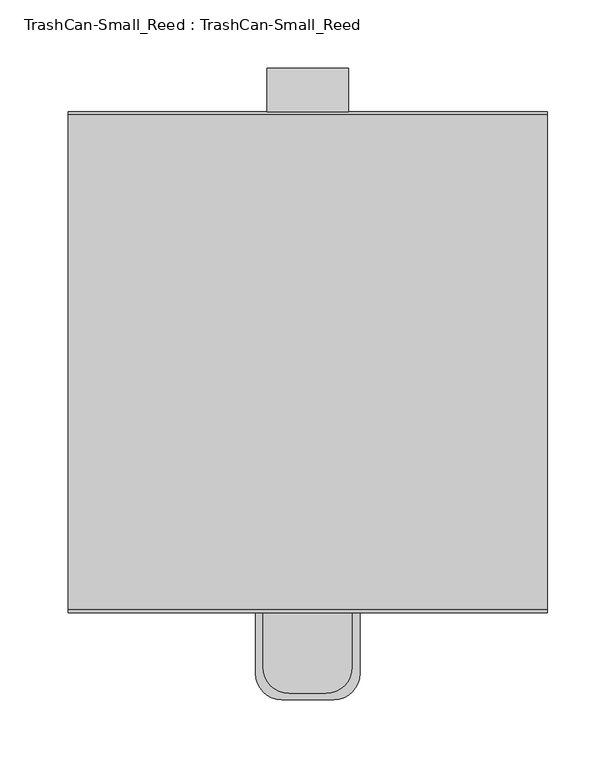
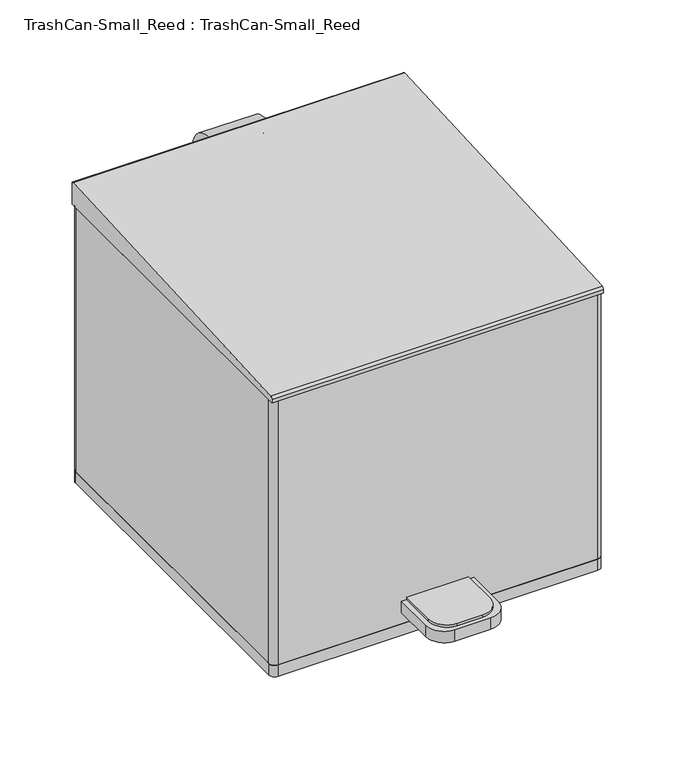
"""IFC4 building model written with IfcOpenShell, lengths in millimetres: proxy geometry, TrashCan-Small_Reed : TrashCan-Small_Reed."""

from ifc_helpers import new_model, si_unit, point, frame, frame_2d, origin, origin_with_axes, place, context, project, spatial, polyline, circle_curve, trimmed, segment, composite_curve, outline, extrude, source, transform, mapped, element, save


def trashcan_small_reed_trashcan_small_reed_99036629(model_context):
    return source(origin(), model_context, "Body", "SweptSolid", [
        extrude(outline(composite_curve([segment(trimmed(circle_curve(frame_2d((182.8601563, 306.5337461)), 7.1959414), [point((182.8601563, 299.3378048))], [point((182.8601563, 313.7296875))], True, "CARTESIAN"), True, "CONTINUOUS"), segment(polyline([(182.8601563, 313.7296875), (182.8601563, 331.0878048)]), True, "CONTINUOUS"), segment(trimmed(circle_curve(frame_2d((182.8601563, 299.3378048)), 31.75), [point((182.8601563, 331.0878048))], [point((182.8601563, 267.5878048))], False, "CARTESIAN"), True, "CONTINUOUS"), segment(polyline([(182.8601563, 267.5878048), (182.8601563, 299.3378048)]), True, "CONTINUOUS")], self_intersect=False)), frame((-29.9163641, 0.0, 0.0), z_axis=(1.0, 0.0, 0.0), x_axis=(0.0, 1.0, 0.0)), (0.0, 0.0, 1.0), 59.8327283),
        extrude(outline(composite_curve([segment(polyline([(-32.7332331, -222.7484044), (-32.7332331, -182.8601563), (32.4648948, -182.8601562), (32.4648948, -222.7484044)]), True, "CONTINUOUS"), segment(trimmed(circle_curve(frame_2d((13.4148948, -222.7484044)), 19.05), [point((32.4648948, -222.7484044))], [point((13.4148948, -241.7984044))], False, "CARTESIAN"), True, "CONTINUOUS"), segment(polyline([(13.4148948, -241.7984044), (-13.6832331, -241.7984044)]), True, "CONTINUOUS"), segment(trimmed(circle_curve(frame_2d((-13.6832331, -222.7484044)), 19.05), [point((-13.6832331, -241.7984044))], [point((-32.7332331, -222.7484044))], False, "CARTESIAN"), True, "CONTINUOUS")], self_intersect=False)), frame((0.0, 0.0, 38.1), z_axis=(0.0, 0.0, 1.0), x_axis=(1.0, 0.0, 0.0)), (0.0, 0.0, 1.0), 2.54),
        extrude(outline(composite_curve([segment(polyline([(-38.1, -227.3101563), (-38.1, -182.8601563), (38.1, -182.8601562), (38.1, -227.3101563)]), True, "CONTINUOUS"), segment(trimmed(circle_curve(frame_2d((19.05, -227.3101563)), 19.05), [point((38.1, -227.3101563))], [point((19.05, -246.3601563))], False, "CARTESIAN"), True, "CONTINUOUS"), segment(polyline([(19.05, -246.3601563), (-19.05, -246.3601563)]), True, "CONTINUOUS"), segment(trimmed(circle_curve(frame_2d((-19.05, -227.3101563)), 19.05), [point((-19.05, -246.3601563))], [point((-38.1, -227.3101563))], False, "CARTESIAN"), True, "CONTINUOUS")], self_intersect=False)), frame((0.0, 0.0, 25.4), z_axis=(0.0, 0.0, 1.0), x_axis=(1.0, 0.0, 0.0)), (0.0, 0.0, 1.0), 12.7),
        extrude(outline(composite_curve([segment(polyline([(-182.8601563, 307.3796875), (-182.8601563, 311.3253655)]), True, "CONTINUOUS"), segment(trimmed(circle_curve(frame_2d((-180.4493891, 311.3253655)), 2.4107671), [point((-182.8601563, 311.3253655))], [point((-180.5755589, 313.7328288))], False, "CARTESIAN"), True, "CONTINUOUS"), segment(polyline([(-180.5755589, 313.7328288), (181.1705922, 332.6911412)]), True, "CONTINUOUS"), segment(trimmed(circle_curve(frame_2d((181.2546195, 331.0878048)), 1.6055368), [point((181.1705922, 332.6911412))], [point((182.8601563, 331.0878048))], False, "CARTESIAN"), True, "CONTINUOUS"), segment(polyline([(182.8601563, 331.0878048), (182.8601563, 307.3796875), (-182.8601563, 307.3796875)]), True, "CONTINUOUS")], self_intersect=False)), frame((-175.0, 0.0, 0.0), z_axis=(1.0, 0.0, 0.0), x_axis=(0.0, 1.0, 0.0)), (0.0, 0.0, 1.0), 350.0),
        extrude(outline(composite_curve([segment(trimmed(circle_curve(frame_2d((-168.65, 176.5101562)), 6.35), [point((-175.0, 176.5101562))], [point((-168.65, 182.8601562))], False, "CARTESIAN"), True, "CONTINUOUS"), segment(polyline([(-168.65, 182.8601562), (168.65, 182.8601562)]), True, "CONTINUOUS"), segment(trimmed(circle_curve(frame_2d((168.65, 176.5101562)), 6.35), [point((168.65, 182.8601562))], [point((175.0, 176.5101562))], False, "CARTESIAN"), True, "CONTINUOUS"), segment(polyline([(175.0, 176.5101562), (175.0, -176.5101562)]), True, "CONTINUOUS"), segment(trimmed(circle_curve(frame_2d((168.65, -176.5101562)), 6.35), [point((175.0, -176.5101562))], [point((168.65, -182.8601562))], False, "CARTESIAN"), True, "CONTINUOUS"), segment(polyline([(168.65, -182.8601562), (-168.65, -182.8601562)]), True, "CONTINUOUS"), segment(trimmed(circle_curve(frame_2d((-168.65, -176.5101562)), 6.35), [point((-168.65, -182.8601562))], [point((-175.0, -176.5101562))], False, "CARTESIAN"), True, "CONTINUOUS"), segment(polyline([(-175.0, -176.5101562), (-175.0, 176.5101562)]), True, "CONTINUOUS")], self_intersect=False)), origin_with_axes(), (0.0, 0.0, 1.0), 12.7),
        extrude(outline(composite_curve([segment(polyline([(-175.0, -176.5101562), (-175.0, 176.5101562)]), True, "CONTINUOUS"), segment(trimmed(circle_curve(frame_2d((-168.65, 176.5101562)), 6.35), [point((-175.0, 176.5101562))], [point((-168.65, 182.8601562))], False, "CARTESIAN"), True, "CONTINUOUS"), segment(polyline([(-168.65, 182.8601562), (168.65, 182.8601562)]), True, "CONTINUOUS"), segment(trimmed(circle_curve(frame_2d((168.65, 176.5101562)), 6.35), [point((168.65, 182.8601562))], [point((175.0, 176.5101562))], False, "CARTESIAN"), True, "CONTINUOUS"), segment(polyline([(175.0, 176.5101562), (175.0, -176.5101562)]), True, "CONTINUOUS"), segment(trimmed(circle_curve(frame_2d((168.65, -176.5101562)), 6.35), [point((175.0, -176.5101562))], [point((168.65, -182.8601562))], False, "CARTESIAN"), True, "CONTINUOUS"), segment(polyline([(168.65, -182.8601562), (-168.65, -182.8601562)]), True, "CONTINUOUS"), segment(trimmed(circle_curve(frame_2d((-168.65, -176.5101562)), 6.35), [point((-168.65, -182.8601562))], [point((-175.0, -176.5101562))], False, "CARTESIAN"), True, "CONTINUOUS")], self_intersect=False)), frame((0.0, 0.0, 12.7), z_axis=(0.0, 0.0, 1.0), x_axis=(1.0, 0.0, 0.0)), (0.0, 0.0, 1.0), 294.6796875),
    ])


if __name__ == "__main__":
    model = new_model("IFC4")
    model_context = context("Model", 3, world=origin())
    ifc_project = project(units=[si_unit("LENGTHUNIT", "METRE", prefix="MILLI")], contexts=[model_context])
    site = spatial("IfcSite", under=ifc_project)
    building = spatial("IfcBuilding", under=site)
    placement = place(None, origin())
    trashcan_small_reed_trashcan_small_reed_shape = trashcan_small_reed_trashcan_small_reed_99036629(model_context)
    element("IfcBuildingElementProxy", 1, Name="TrashCan-Small_Reed : TrashCan-Small_Reed", ObjectType="TrashCan-Small_Reed : TrashCan-Small_Reed", at=placement, inside=building, context=model_context, shape_type="MappedRepresentation", body=[
        mapped(trashcan_small_reed_trashcan_small_reed_shape, transform((0.0, 0.0, 0.0), x_axis=(1.0, 0.0, 0.0), y_axis=(0.0, 1.0, 0.0), z_axis=(0.0, 0.0, 1.0))),
    ])
    save(model, "model.ifc")
